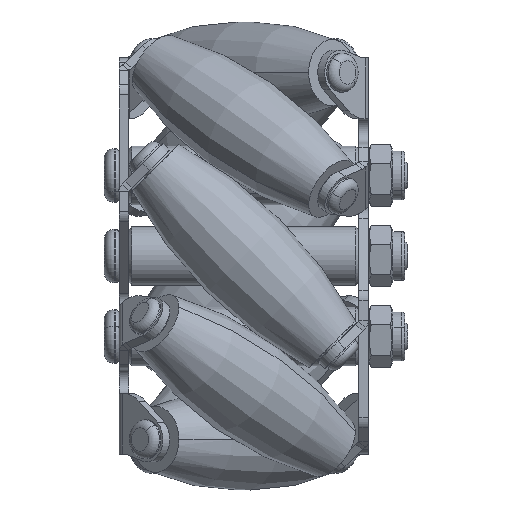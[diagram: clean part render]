
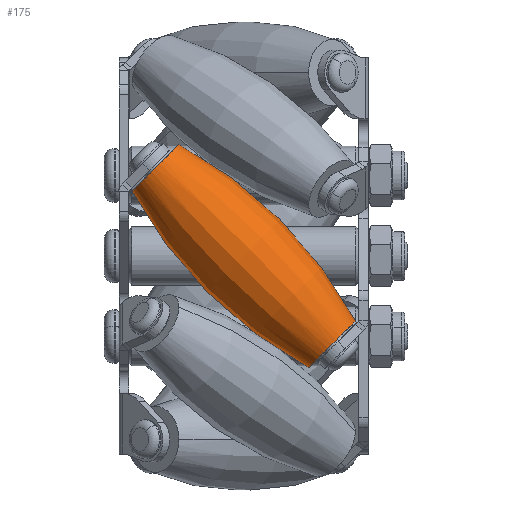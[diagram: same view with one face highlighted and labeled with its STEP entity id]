
A CAD part, front view. The second image highlights one B-rep face of the part: STEP entity #175.
In plain terms, the highlighted face is a revolution surface.
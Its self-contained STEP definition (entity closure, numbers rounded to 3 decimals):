
#175 = ADVANCED_FACE('',(#176),#191,.F.);
#176 = FACE_BOUND('',#177,.F.);
#177 = EDGE_LOOP('',(#178,#221,#257,#290));
#178 = ORIENTED_EDGE('',*,*,#179,.T.);
#179 = EDGE_CURVE('',#180,#182,#184,.T.);
#180 = VERTEX_POINT('',#181);
#181 = CARTESIAN_POINT('',(6.632,-18.75,11.399));
#182 = VERTEX_POINT('',#183);
#183 = CARTESIAN_POINT('',(11.399,-18.75,6.632));
#184 = SURFACE_CURVE('',#185,(#190,#209),.PCURVE_S1.);
#185 = CIRCLE('',#186,3.371);
#186 = AXIS2_PLACEMENT_3D('',#187,#188,#189);
#187 = CARTESIAN_POINT('',(9.016,-18.75,9.016));
#188 = DIRECTION('',(0.707,0.,0.707));
#189 = DIRECTION('',(-0.707,0.,0.707));
#190 = PCURVE('',#191,#203);
#191 = SURFACE_OF_REVOLUTION('',#192,#200);
#192 = B_SPLINE_CURVE_WITH_KNOTS('',6,(#193,#194,#195,#196,#197,#198,
    #199),.UNSPECIFIED.,.F.,.F.,(7,7),(2.849,3.434),
  .PIECEWISE_BEZIER_KNOTS.);
#193 = CARTESIAN_POINT('',(-6.632,-18.75,-11.399));
#194 = CARTESIAN_POINT('',(-2.834,-18.75,-9.36));
#195 = CARTESIAN_POINT('',(0.726,-18.75,-6.876));
#196 = CARTESIAN_POINT('',(3.982,-18.75,-3.982));
#197 = CARTESIAN_POINT('',(6.876,-18.75,-0.726));
#198 = CARTESIAN_POINT('',(9.36,-18.75,2.834));
#199 = CARTESIAN_POINT('',(11.399,-18.75,6.632));
#200 = AXIS1_PLACEMENT('',#201,#202);
#201 = CARTESIAN_POINT('',(0.,-18.75,0.)
  );
#202 = DIRECTION('',(-0.707,0.,-0.707
    ));
#203 = DEFINITIONAL_REPRESENTATION('',(#204),#208);
#204 = LINE('',#205,#206);
#205 = CARTESIAN_POINT('',(3.142,3.434));
#206 = VECTOR('',#207,1.);
#207 = DIRECTION('',(-1.,0.));
#208 = ( GEOMETRIC_REPRESENTATION_CONTEXT(2) 
PARAMETRIC_REPRESENTATION_CONTEXT() REPRESENTATION_CONTEXT('2D SPACE',''
  ) );
#209 = PCURVE('',#210,#215);
#210 = PLANE('',#211);
#211 = AXIS2_PLACEMENT_3D('',#212,#213,#214);
#212 = CARTESIAN_POINT('',(9.016,-20.75,9.016));
#213 = DIRECTION('',(0.707,0.,0.707));
#214 = DIRECTION('',(-0.707,0.,0.707));
#215 = DEFINITIONAL_REPRESENTATION('',(#216),#220);
#216 = CIRCLE('',#217,3.371);
#217 = AXIS2_PLACEMENT_2D('',#218,#219);
#218 = CARTESIAN_POINT('',(0.,-2.));
#219 = DIRECTION('',(1.,0.));
#220 = ( GEOMETRIC_REPRESENTATION_CONTEXT(2) 
PARAMETRIC_REPRESENTATION_CONTEXT() REPRESENTATION_CONTEXT('2D SPACE',''
  ) );
#221 = ORIENTED_EDGE('',*,*,#222,.T.);
#222 = EDGE_CURVE('',#182,#223,#225,.T.);
#223 = VERTEX_POINT('',#224);
#224 = CARTESIAN_POINT('',(-6.632,-18.75,-11.399));
#225 = SURFACE_CURVE('',#226,(#231,#238),.PCURVE_S1.);
#226 = CIRCLE('',#227,44.2);
#227 = AXIS2_PLACEMENT_3D('',#228,#229,#230);
#228 = CARTESIAN_POINT('',(-27.542,-18.75,27.542));
#229 = DIRECTION('',(0.,1.,0.));
#230 = DIRECTION('',(0.,0.,1.));
#231 = PCURVE('',#191,#232);
#232 = DEFINITIONAL_REPRESENTATION('',(#233),#237);
#233 = LINE('',#234,#235);
#234 = CARTESIAN_POINT('',(0.,5.498));
#235 = VECTOR('',#236,1.);
#236 = DIRECTION('',(-0.,-1.));
#237 = ( GEOMETRIC_REPRESENTATION_CONTEXT(2) 
PARAMETRIC_REPRESENTATION_CONTEXT() REPRESENTATION_CONTEXT('2D SPACE',''
  ) );
#238 = PCURVE('',#239,#251);
#239 = SURFACE_OF_REVOLUTION('',#240,#248);
#240 = B_SPLINE_CURVE_WITH_KNOTS('',6,(#241,#242,#243,#244,#245,#246,
    #247),.UNSPECIFIED.,.F.,.F.,(7,7),(2.849,3.434),
  .PIECEWISE_BEZIER_KNOTS.);
#241 = CARTESIAN_POINT('',(-6.632,-18.75,-11.399));
#242 = CARTESIAN_POINT('',(-2.834,-18.75,-9.36));
#243 = CARTESIAN_POINT('',(0.726,-18.75,-6.876));
#244 = CARTESIAN_POINT('',(3.982,-18.75,-3.982));
#245 = CARTESIAN_POINT('',(6.876,-18.75,-0.726));
#246 = CARTESIAN_POINT('',(9.36,-18.75,2.834));
#247 = CARTESIAN_POINT('',(11.399,-18.75,6.632));
#248 = AXIS1_PLACEMENT('',#249,#250);
#249 = CARTESIAN_POINT('',(0.,-18.75,0.)
  );
#250 = DIRECTION('',(-0.707,0.,-0.707
    ));
#251 = DEFINITIONAL_REPRESENTATION('',(#252),#256);
#252 = LINE('',#253,#254);
#253 = CARTESIAN_POINT('',(6.283,5.498));
#254 = VECTOR('',#255,1.);
#255 = DIRECTION('',(-0.,-1.));
#256 = ( GEOMETRIC_REPRESENTATION_CONTEXT(2) 
PARAMETRIC_REPRESENTATION_CONTEXT() REPRESENTATION_CONTEXT('2D SPACE',''
  ) );
#257 = ORIENTED_EDGE('',*,*,#258,.F.);
#258 = EDGE_CURVE('',#259,#223,#261,.T.);
#259 = VERTEX_POINT('',#260);
#260 = CARTESIAN_POINT('',(-11.399,-18.75,-6.632));
#261 = SURFACE_CURVE('',#262,(#267,#274),.PCURVE_S1.);
#262 = CIRCLE('',#263,3.371);
#263 = AXIS2_PLACEMENT_3D('',#264,#265,#266);
#264 = CARTESIAN_POINT('',(-9.016,-18.75,-9.016));
#265 = DIRECTION('',(0.707,0.,0.707));
#266 = DIRECTION('',(-0.707,0.,0.707)
  );
#267 = PCURVE('',#191,#268);
#268 = DEFINITIONAL_REPRESENTATION('',(#269),#273);
#269 = LINE('',#270,#271);
#270 = CARTESIAN_POINT('',(3.142,2.849));
#271 = VECTOR('',#272,1.);
#272 = DIRECTION('',(-1.,0.));
#273 = ( GEOMETRIC_REPRESENTATION_CONTEXT(2) 
PARAMETRIC_REPRESENTATION_CONTEXT() REPRESENTATION_CONTEXT('2D SPACE',''
  ) );
#274 = PCURVE('',#275,#280);
#275 = PLANE('',#276);
#276 = AXIS2_PLACEMENT_3D('',#277,#278,#279);
#277 = CARTESIAN_POINT('',(-9.016,-20.75,-9.016));
#278 = DIRECTION('',(-0.707,0.,-0.707
    ));
#279 = DIRECTION('',(0.707,0.,-0.707));
#280 = DEFINITIONAL_REPRESENTATION('',(#281),#289);
#281 = ( BOUNDED_CURVE() B_SPLINE_CURVE(2,(#282,#283,#284,#285,#286,#287
,#288),.UNSPECIFIED.,.T.,.F.) B_SPLINE_CURVE_WITH_KNOTS((1,2,2,2,2,1),(
    -2.094,0.,2.094,4.189,6.283,
8.378),.UNSPECIFIED.) CURVE() GEOMETRIC_REPRESENTATION_ITEM() 
RATIONAL_B_SPLINE_CURVE((1.,0.5,1.,0.5,1.,0.5,1.)) REPRESENTATION_ITEM(
  '') );
#282 = CARTESIAN_POINT('',(-3.371,-2.));
#283 = CARTESIAN_POINT('',(-3.371,3.839));
#284 = CARTESIAN_POINT('',(1.686,0.919));
#285 = CARTESIAN_POINT('',(6.742,-2.));
#286 = CARTESIAN_POINT('',(1.686,-4.919));
#287 = CARTESIAN_POINT('',(-3.371,-7.839));
#288 = CARTESIAN_POINT('',(-3.371,-2.));
#289 = ( GEOMETRIC_REPRESENTATION_CONTEXT(2) 
PARAMETRIC_REPRESENTATION_CONTEXT() REPRESENTATION_CONTEXT('2D SPACE',''
  ) );
#290 = ORIENTED_EDGE('',*,*,#291,.F.);
#291 = EDGE_CURVE('',#180,#259,#292,.T.);
#292 = SURFACE_CURVE('',#293,(#298,#305),.PCURVE_S1.);
#293 = CIRCLE('',#294,44.2);
#294 = AXIS2_PLACEMENT_3D('',#295,#296,#297);
#295 = CARTESIAN_POINT('',(27.542,-18.75,-27.542));
#296 = DIRECTION('',(0.,-1.,0.));
#297 = DIRECTION('',(0.,0.,-1.));
#298 = PCURVE('',#191,#299);
#299 = DEFINITIONAL_REPRESENTATION('',(#300),#304);
#300 = LINE('',#301,#302);
#301 = CARTESIAN_POINT('',(3.142,7.069));
#302 = VECTOR('',#303,1.);
#303 = DIRECTION('',(-0.,-1.));
#304 = ( GEOMETRIC_REPRESENTATION_CONTEXT(2) 
PARAMETRIC_REPRESENTATION_CONTEXT() REPRESENTATION_CONTEXT('2D SPACE',''
  ) );
#305 = PCURVE('',#239,#306);
#306 = DEFINITIONAL_REPRESENTATION('',(#307),#311);
#307 = LINE('',#308,#309);
#308 = CARTESIAN_POINT('',(3.142,7.069));
#309 = VECTOR('',#310,1.);
#310 = DIRECTION('',(-0.,-1.));
#311 = ( GEOMETRIC_REPRESENTATION_CONTEXT(2) 
PARAMETRIC_REPRESENTATION_CONTEXT() REPRESENTATION_CONTEXT('2D SPACE',''
  ) );
